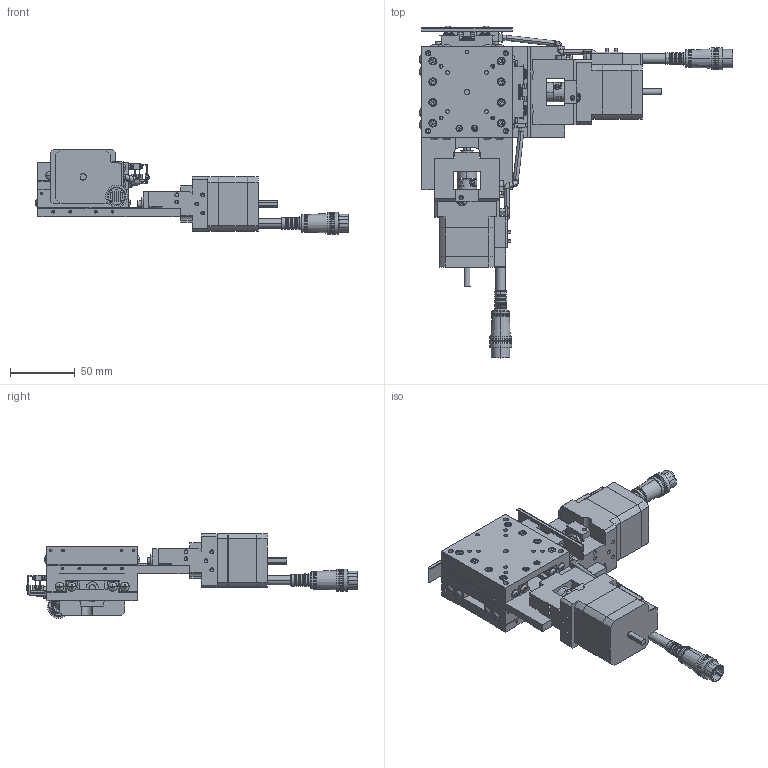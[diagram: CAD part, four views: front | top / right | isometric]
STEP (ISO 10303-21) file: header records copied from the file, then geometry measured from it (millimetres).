
FILE_DESCRIPTION (( 'STEP AP203' ), '1' );
FILE_NAME ('YA07F-R103.STEP', '2019-02-26T08:47:41', ( '' ), ( '' ), 'SwSTEP 2.0', 'SolidWorks 2018', '' );
FILE_SCHEMA (( 'CONFIG_CONTROL_DESIGN' ));
Length unit declared in the file: millimetre
Products named in the file (10): second table-Part-2; second table-Part-1; base-Part-1; YA07F-R103; second table; base-Part-3; second table-Part-3; base; table; base-Part-2
Assembly tree (9 placements, depth 3):
  YA07F-R103
    second table
      second table-Part-1
      second table-Part-2
      second table-Part-3
    base
      base-Part-1
      base-Part-2
      base-Part-3
    table
Bounding box: 242.39 x 256.68 x 65.5 mm (x, y, z)
Volume: 456166.4 mm3; surface area: 153822.8 mm2
Topology: 7 solids, 7 shells, 4133 faces, 10321 edges, 6328 vertices
Faces by surface type: plane 2371, cylinder 1022, cone 564, torus 108, sphere 68
Entity records: 124183 total; most frequent: CARTESIAN_POINT 22778, DIRECTION 21911, ORIENTED_EDGE 20274, EDGE_CURVE 10137, AXIS2_PLACEMENT_3D 7901, VERTEX_POINT 6316, LINE 6109, VECTOR 6109
